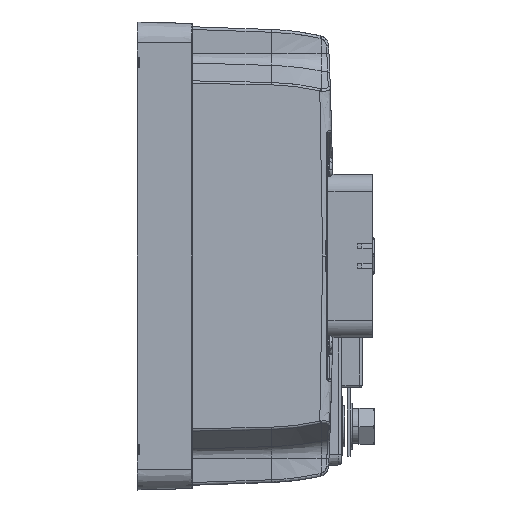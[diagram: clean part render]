
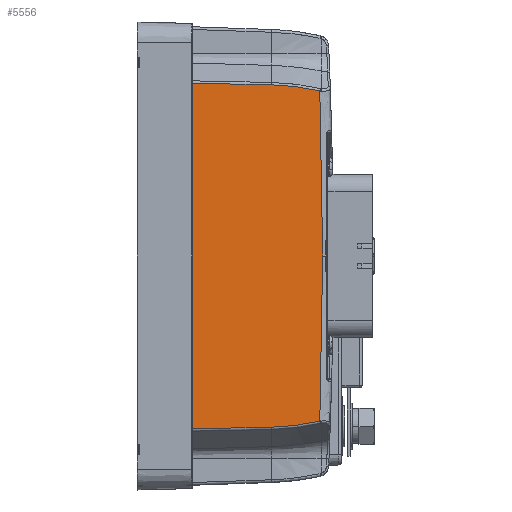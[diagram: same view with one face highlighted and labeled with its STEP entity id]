
A CAD part, left-side view. The second image highlights one B-rep face of the part: STEP entity #5556.
In plain terms, the highlighted planar face has unit normal (-0.999, -0.035, 0).
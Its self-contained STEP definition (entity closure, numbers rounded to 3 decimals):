
#5556 = ADVANCED_FACE ( 'NONE', ( #118454 ), #108487, .T. ) ;
#47628 = ORIENTED_EDGE ( 'NONE', *, *, #162887, .T. ) ;
#47634 = ORIENTED_EDGE ( 'NONE', *, *, #162882, .T. ) ;
#47641 = ORIENTED_EDGE ( 'NONE', *, *, #162885, .T. ) ;
#47647 = ORIENTED_EDGE ( 'NONE', *, *, #162870, .T. ) ;
#47654 = ORIENTED_EDGE ( 'NONE', *, *, #162822, .T. ) ;
#47660 = ORIENTED_EDGE ( 'NONE', *, *, #162880, .T. ) ;
#47666 = ORIENTED_EDGE ( 'NONE', *, *, #162889, .T. ) ;
#58711 = B_SPLINE_CURVE_WITH_KNOTS ( 'NONE', 3,
 ( #158306, #158337, #158340, #158343, #158346, #158349 ),
 .UNSPECIFIED., .F., .F.,
 ( 4, 2, 4 ),
 ( 0., 0.5, 1. ),
 .UNSPECIFIED. ) ;
#58724 = B_SPLINE_CURVE_WITH_KNOTS ( 'NONE', 3,
 ( #158470, #158548, #158550, #158553 ),
 .UNSPECIFIED., .F., .F.,
 ( 4, 4 ),
 ( 0., 1. ),
 .UNSPECIFIED. ) ;
#58727 = B_SPLINE_CURVE_WITH_KNOTS ( 'NONE', 3,
 ( #158572, #158602, #158605, #158608 ),
 .UNSPECIFIED., .F., .F.,
 ( 4, 4 ),
 ( 0., 1. ),
 .UNSPECIFIED. ) ;
#58729 = B_SPLINE_CURVE_WITH_KNOTS ( 'NONE', 3,
 ( #158599, #158615, #158618, #158621, #158624, #158627 ),
 .UNSPECIFIED., .F., .F.,
 ( 4, 2, 4 ),
 ( 0., 0.5, 1. ),
 .UNSPECIFIED. ) ;
#108485 = CARTESIAN_POINT ( 'NONE',  ( -120.972, -9.878, 68.345 ) ) ;
#108487 = PLANE ( 'NONE',  #122826 ) ;
#108492 = DIRECTION ( 'NONE',  ( -0.999, -0.035, 0. ) ) ;
#108493 = DIRECTION ( 'NONE',  ( -0.035, 0.999, 0. ) ) ;
#118454 = FACE_OUTER_BOUND ( 'NONE', #150819, .T. ) ;
#122826 = AXIS2_PLACEMENT_3D ( 'NONE', #108485, #108492, #108493 ) ;
#150819 = EDGE_LOOP ( 'NONE', ( #47634, #47628, #47641, #47647, #47654, #47660, #47666 ) ) ;
#150948 = VECTOR ( 'NONE', #158587, 1000. ) ;
#150955 = LINE ( 'NONE', #158584, #150948 ) ;
#150958 = VECTOR ( 'NONE', #158635, 1000. ) ;
#150961 = LINE ( 'NONE', #158592, #150962 ) ;
#150962 = VECTOR ( 'NONE', #158595, 1000. ) ;
#150963 = LINE ( 'NONE', #158632, #150958 ) ;
#153150 = CARTESIAN_POINT ( 'NONE',  ( -122.638, 37.846, -58.26 ) ) ;
#153152 = CARTESIAN_POINT ( 'NONE',  ( -121.635, 9.114, -57.681 ) ) ;
#153155 = CARTESIAN_POINT ( 'NONE',  ( -121.018, -8.554, -55.475 ) ) ;
#153157 = CARTESIAN_POINT ( 'NONE',  ( -120.982, -9.594, 4.665 ) ) ;
#153160 = CARTESIAN_POINT ( 'NONE',  ( -121.018, -8.554, 64.804 ) ) ;
#153163 = CARTESIAN_POINT ( 'NONE',  ( -121.635, 9.114, 67.01 ) ) ;
#153165 = CARTESIAN_POINT ( 'NONE',  ( -122.638, 37.846, 67.59 ) ) ;
#158306 = CARTESIAN_POINT ( 'NONE',  ( -121.018, -8.554, 64.804 ) ) ;
#158337 = CARTESIAN_POINT ( 'NONE',  ( -121.12, -5.649, 65.478 ) ) ;
#158340 = CARTESIAN_POINT ( 'NONE',  ( -121.222, -2.72, 65.999 ) ) ;
#158343 = CARTESIAN_POINT ( 'NONE',  ( -121.428, 3.18, 66.736 ) ) ;
#158346 = CARTESIAN_POINT ( 'NONE',  ( -121.531, 6.141, 66.95 ) ) ;
#158349 = CARTESIAN_POINT ( 'NONE',  ( -121.635, 9.114, 67.01 ) ) ;
#158470 = CARTESIAN_POINT ( 'NONE',  ( -120.982, -9.594, 4.665 ) ) ;
#158548 = CARTESIAN_POINT ( 'NONE',  ( -120.982, -9.594, 24.717 ) ) ;
#158550 = CARTESIAN_POINT ( 'NONE',  ( -120.994, -9.247, 44.763 ) ) ;
#158553 = CARTESIAN_POINT ( 'NONE',  ( -121.018, -8.554, 64.804 ) ) ;
#158572 = CARTESIAN_POINT ( 'NONE',  ( -121.018, -8.554, -55.475 ) ) ;
#158584 = CARTESIAN_POINT ( 'NONE',  ( -121.635, 9.114, 67.01 ) ) ;
#158587 = DIRECTION ( 'NONE',  ( -0.035, 0.999, 0.02 ) ) ;
#158592 = CARTESIAN_POINT ( 'NONE',  ( -122.638, 37.846, -58.26 ) ) ;
#158595 = DIRECTION ( 'NONE',  ( 0.035, -0.999, 0.02 ) ) ;
#158599 = CARTESIAN_POINT ( 'NONE',  ( -121.635, 9.114, -57.681 ) ) ;
#158602 = CARTESIAN_POINT ( 'NONE',  ( -120.994, -9.247, -35.434 ) ) ;
#158605 = CARTESIAN_POINT ( 'NONE',  ( -120.982, -9.594, -15.388 ) ) ;
#158608 = CARTESIAN_POINT ( 'NONE',  ( -120.982, -9.594, 4.665 ) ) ;
#158615 = CARTESIAN_POINT ( 'NONE',  ( -121.531, 6.142, -57.621 ) ) ;
#158618 = CARTESIAN_POINT ( 'NONE',  ( -121.428, 3.18, -57.407 ) ) ;
#158621 = CARTESIAN_POINT ( 'NONE',  ( -121.222, -2.72, -56.67 ) ) ;
#158624 = CARTESIAN_POINT ( 'NONE',  ( -121.12, -5.648, -56.149 ) ) ;
#158627 = CARTESIAN_POINT ( 'NONE',  ( -121.018, -8.554, -55.475 ) ) ;
#158632 = CARTESIAN_POINT ( 'NONE',  ( -122.638, 37.846, 4.665 ) ) ;
#158635 = DIRECTION ( 'NONE',  ( 0., 0., -1. ) ) ;
#161202 = VERTEX_POINT ( 'NONE', #153150 ) ;
#161205 = VERTEX_POINT ( 'NONE', #153152 ) ;
#161207 = VERTEX_POINT ( 'NONE', #153155 ) ;
#161210 = VERTEX_POINT ( 'NONE', #153157 ) ;
#161213 = VERTEX_POINT ( 'NONE', #153160 ) ;
#161216 = VERTEX_POINT ( 'NONE', #153163 ) ;
#161219 = VERTEX_POINT ( 'NONE', #153165 ) ;
#162822 = EDGE_CURVE ( 'NONE', #161213, #161216, #58711, .T. ) ;
#162870 = EDGE_CURVE ( 'NONE', #161210, #161213, #58724, .T. ) ;
#162880 = EDGE_CURVE ( 'NONE', #161216, #161219, #150955, .T. ) ;
#162882 = EDGE_CURVE ( 'NONE', #161202, #161205, #150961, .T. ) ;
#162885 = EDGE_CURVE ( 'NONE', #161207, #161210, #58727, .T. ) ;
#162887 = EDGE_CURVE ( 'NONE', #161205, #161207, #58729, .T. ) ;
#162889 = EDGE_CURVE ( 'NONE', #161219, #161202, #150963, .T. ) ;
